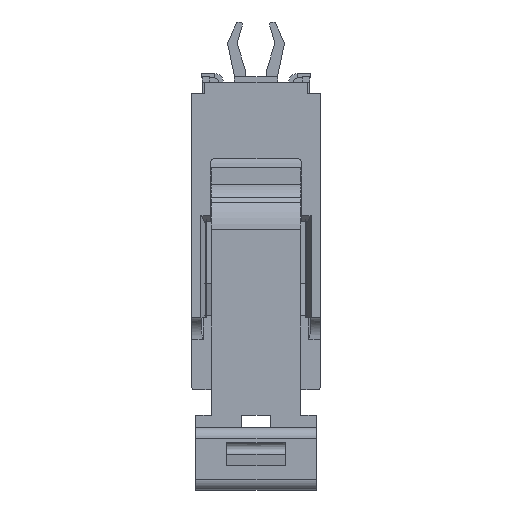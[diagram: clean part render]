
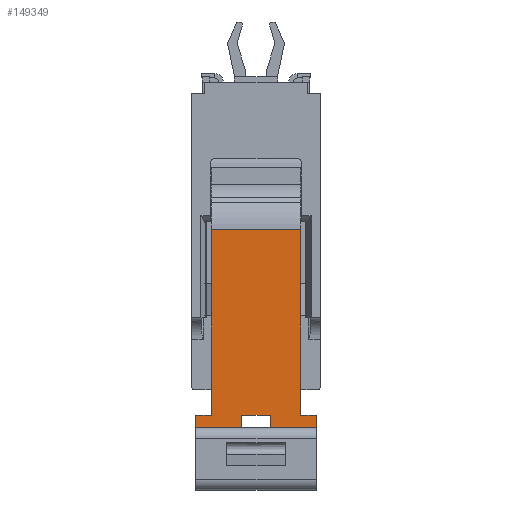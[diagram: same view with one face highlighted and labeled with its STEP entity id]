
A CAD part, front view. The second image highlights one B-rep face of the part: STEP entity #149349.
In plain terms, the highlighted planar face has unit normal (0, -1, 0).
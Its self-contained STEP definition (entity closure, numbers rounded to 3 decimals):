
#44352=DIRECTION('',(1.,0.,0.));
#44353=VECTOR('',#44352,0.725);
#44354=CARTESIAN_POINT('',(-2.85,-70.35,-16.07));
#44355=LINE('',#44354,#44353);
#44365=DIRECTION('',(1.,0.,0.));
#44366=VECTOR('',#44365,2.165);
#44367=CARTESIAN_POINT('',(0.685,-70.35,-16.67));
#44368=LINE('',#44367,#44366);
#44369=DIRECTION('',(0.,0.,-1.));
#44370=VECTOR('',#44369,0.6);
#44371=CARTESIAN_POINT('',(0.685,-70.35,-16.07));
#44372=LINE('',#44371,#44370);
#44373=DIRECTION('',(0.,0.,1.));
#44374=VECTOR('',#44373,0.6);
#44375=CARTESIAN_POINT('',(-0.685,-70.35,-16.67));
#44376=LINE('',#44375,#44374);
#44377=DIRECTION('',(0.,0.,-1.));
#44378=VECTOR('',#44377,0.6);
#44379=CARTESIAN_POINT('',(-2.85,-70.35,-16.07));
#44380=LINE('',#44379,#44378);
#44381=DIRECTION('',(0.,0.,-1.));
#44382=VECTOR('',#44381,8.77);
#44383=CARTESIAN_POINT('',(-2.125,-70.35,-7.3));
#44384=LINE('',#44383,#44382);
#44385=DIRECTION('',(-1.,0.,0.));
#44386=VECTOR('',#44385,0.725);
#44387=CARTESIAN_POINT('',(2.85,-70.35,-16.07));
#44388=LINE('',#44387,#44386);
#44389=DIRECTION('',(0.,0.,1.));
#44390=VECTOR('',#44389,0.6);
#44391=CARTESIAN_POINT('',(2.85,-70.35,-16.67));
#44392=LINE('',#44391,#44390);
#44393=DIRECTION('',(-1.,0.,0.));
#44394=VECTOR('',#44393,2.165);
#44395=CARTESIAN_POINT('',(-0.685,-70.35,-16.67));
#44396=LINE('',#44395,#44394);
#44582=DIRECTION('',(0.,0.,-1.));
#44583=VECTOR('',#44582,8.77);
#44584=CARTESIAN_POINT('',(2.125,-70.35,-7.3));
#44585=LINE('',#44584,#44583);
#45205=DIRECTION('',(-1.,0.,0.));
#45206=VECTOR('',#45205,1.37);
#45207=CARTESIAN_POINT('',(0.685,-70.35,-16.07));
#45208=LINE('',#45207,#45206);
#45620=DIRECTION('',(1.,0.,0.));
#45621=VECTOR('',#45620,4.25);
#45622=CARTESIAN_POINT('',(-2.125,-70.35,-7.3));
#45623=LINE('',#45622,#45621);
#94230=CARTESIAN_POINT('',(2.85,-70.35,-16.07));
#94231=CARTESIAN_POINT('',(2.125,-70.35,-16.07));
#94232=VERTEX_POINT('',#94230);
#94233=VERTEX_POINT('',#94231);
#94252=CARTESIAN_POINT('',(-2.85,-70.35,-16.07));
#94253=CARTESIAN_POINT('',(-2.125,-70.35,-16.07));
#94254=VERTEX_POINT('',#94252);
#94255=VERTEX_POINT('',#94253);
#94316=CARTESIAN_POINT('',(2.85,-70.35,-16.67));
#94317=VERTEX_POINT('',#94316);
#94326=CARTESIAN_POINT('',(-2.85,-70.35,-16.67));
#94327=VERTEX_POINT('',#94326);
#94356=CARTESIAN_POINT('',(0.685,-70.35,-16.07));
#94357=CARTESIAN_POINT('',(0.685,-70.35,-16.67));
#94358=VERTEX_POINT('',#94356);
#94359=VERTEX_POINT('',#94357);
#94400=CARTESIAN_POINT('',(-0.685,-70.35,-16.67));
#94401=VERTEX_POINT('',#94400);
#94410=CARTESIAN_POINT('',(-0.685,-70.35,-16.07));
#94411=VERTEX_POINT('',#94410);
#94432=CARTESIAN_POINT('',(-2.125,-70.35,-7.3));
#94434=VERTEX_POINT('',#94432);
#94476=CARTESIAN_POINT('',(2.125,-70.35,-7.3));
#94477=VERTEX_POINT('',#94476);
#149320=CARTESIAN_POINT('',(-2.475,-70.35,-0.53));
#149321=DIRECTION('',(0.,-1.,0.));
#149322=DIRECTION('',(0.,0.,1.));
#149323=AXIS2_PLACEMENT_3D('',#149320,#149321,#149322);
#149324=PLANE('',#149323);
#149326=ORIENTED_EDGE('',*,*,#149325,.F.);
#149328=ORIENTED_EDGE('',*,*,#149327,.F.);
#149330=ORIENTED_EDGE('',*,*,#149329,.T.);
#149332=ORIENTED_EDGE('',*,*,#149331,.F.);
#149334=ORIENTED_EDGE('',*,*,#149333,.T.);
#149336=ORIENTED_EDGE('',*,*,#149335,.F.);
#149337=ORIENTED_EDGE('',*,*,#149301,.T.);
#149338=ORIENTED_EDGE('',*,*,#149214,.F.);
#149340=ORIENTED_EDGE('',*,*,#149339,.T.);
#149342=ORIENTED_EDGE('',*,*,#149341,.T.);
#149344=ORIENTED_EDGE('',*,*,#149343,.F.);
#149346=ORIENTED_EDGE('',*,*,#149345,.F.);
#149347=EDGE_LOOP('',(#149326,#149328,#149330,#149332,#149334,#149336,#149337,
#149338,#149340,#149342,#149344,#149346));
#149348=FACE_OUTER_BOUND('',#149347,.F.);
#149349=ADVANCED_FACE('',(#149348),#149324,.T.);
#149214=EDGE_CURVE('',#94434,#94255,#44384,.T.);
#149301=EDGE_CURVE('',#94254,#94255,#44355,.T.);
#149325=EDGE_CURVE('',#94359,#94317,#44368,.T.);
#149327=EDGE_CURVE('',#94358,#94359,#44372,.T.);
#149329=EDGE_CURVE('',#94358,#94411,#45208,.T.);
#149331=EDGE_CURVE('',#94401,#94411,#44376,.T.);
#149333=EDGE_CURVE('',#94401,#94327,#44396,.T.);
#149335=EDGE_CURVE('',#94254,#94327,#44380,.T.);
#149339=EDGE_CURVE('',#94434,#94477,#45623,.T.);
#149341=EDGE_CURVE('',#94477,#94233,#44585,.T.);
#149343=EDGE_CURVE('',#94232,#94233,#44388,.T.);
#149345=EDGE_CURVE('',#94317,#94232,#44392,.T.);
